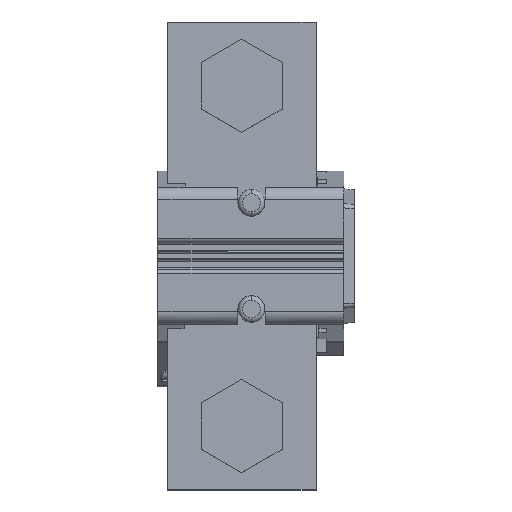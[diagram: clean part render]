
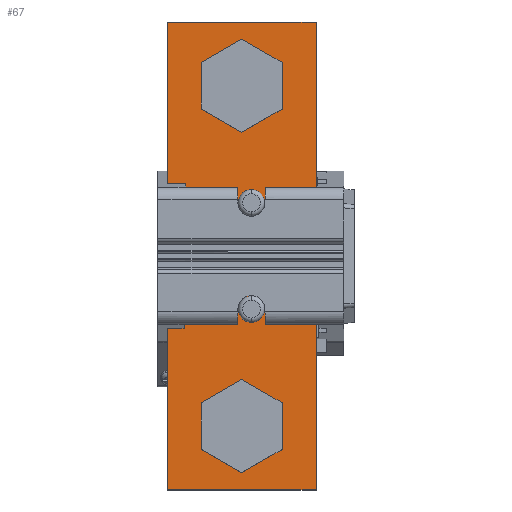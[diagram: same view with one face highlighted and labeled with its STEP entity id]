
A CAD part, top view. The second image highlights one B-rep face of the part: STEP entity #67.
In plain terms, the highlighted planar face has unit normal (0, 0, 1).
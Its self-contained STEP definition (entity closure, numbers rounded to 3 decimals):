
#67=ADVANCED_FACE('',(#417,#418,#419,#420,#421),#422,.T.);
#417=FACE_OUTER_BOUND('',#1091,.T.);
#418=FACE_BOUND('',#1092,.T.);
#419=FACE_BOUND('',#1093,.T.);
#420=FACE_BOUND('',#1094,.T.);
#421=FACE_BOUND('',#1095,.T.);
#422=PLANE('',#1096);
#1091=EDGE_LOOP('',(#3218,#3219,#3220,#3221,#3222,#3223,#3224,#3225));
#1092=EDGE_LOOP('',(#3226,#3227,#3228,#3229,#3230,#3231));
#1093=EDGE_LOOP('',(#3232,#3233));
#1094=EDGE_LOOP('',(#3234,#3235));
#1095=EDGE_LOOP('',(#3236,#3237,#3238,#3239,#3240,#3241));
#1096=AXIS2_PLACEMENT_3D('',#3242,#3243,#3244);
#3218=ORIENTED_EDGE('',*,*,#6003,.F.);
#3219=ORIENTED_EDGE('',*,*,#6004,.F.);
#3220=ORIENTED_EDGE('',*,*,#6005,.T.);
#3221=ORIENTED_EDGE('',*,*,#6006,.F.);
#3222=ORIENTED_EDGE('',*,*,#6007,.T.);
#3223=ORIENTED_EDGE('',*,*,#6008,.T.);
#3224=ORIENTED_EDGE('',*,*,#6009,.T.);
#3225=ORIENTED_EDGE('',*,*,#6010,.T.);
#3226=ORIENTED_EDGE('',*,*,#6011,.T.);
#3227=ORIENTED_EDGE('',*,*,#6012,.T.);
#3228=ORIENTED_EDGE('',*,*,#6013,.F.);
#3229=ORIENTED_EDGE('',*,*,#6014,.T.);
#3230=ORIENTED_EDGE('',*,*,#6015,.T.);
#3231=ORIENTED_EDGE('',*,*,#6016,.F.);
#3232=ORIENTED_EDGE('',*,*,#6017,.T.);
#3233=ORIENTED_EDGE('',*,*,#6018,.T.);
#3234=ORIENTED_EDGE('',*,*,#6019,.T.);
#3235=ORIENTED_EDGE('',*,*,#6020,.T.);
#3236=ORIENTED_EDGE('',*,*,#6021,.F.);
#3237=ORIENTED_EDGE('',*,*,#6022,.T.);
#3238=ORIENTED_EDGE('',*,*,#5989,.T.);
#3239=ORIENTED_EDGE('',*,*,#6002,.F.);
#3240=ORIENTED_EDGE('',*,*,#6000,.T.);
#3241=ORIENTED_EDGE('',*,*,#5998,.T.);
#3242=CARTESIAN_POINT('',(0.,-165.036,433.114));
#3243=DIRECTION('',(0.,0.,1.0));
#3244=DIRECTION('',(0.,1.0,0.));
#5989=EDGE_CURVE('',#7004,#7002,#7005,.T.);
#5998=EDGE_CURVE('',#7020,#7018,#7021,.T.);
#6000=EDGE_CURVE('',#7023,#7020,#7024,.T.);
#6002=EDGE_CURVE('',#7023,#7002,#7026,.T.);
#6003=EDGE_CURVE('',#7027,#7028,#7029,.T.);
#6004=EDGE_CURVE('',#7030,#7027,#7031,.T.);
#6005=EDGE_CURVE('',#7030,#7032,#7033,.T.);
#6006=EDGE_CURVE('',#7034,#7032,#7035,.T.);
#6007=EDGE_CURVE('',#7034,#7036,#7037,.T.);
#6008=EDGE_CURVE('',#7036,#7038,#7039,.T.);
#6009=EDGE_CURVE('',#7038,#7040,#7041,.T.);
#6010=EDGE_CURVE('',#7040,#7028,#7042,.T.);
#6011=EDGE_CURVE('',#7043,#7044,#7045,.T.);
#6012=EDGE_CURVE('',#7044,#7046,#7047,.T.);
#6013=EDGE_CURVE('',#7048,#7046,#7049,.T.);
#6014=EDGE_CURVE('',#7048,#7050,#7051,.T.);
#6015=EDGE_CURVE('',#7050,#7052,#7053,.T.);
#6016=EDGE_CURVE('',#7043,#7052,#7054,.T.);
#6017=EDGE_CURVE('',#7055,#7056,#7057,.T.);
#6018=EDGE_CURVE('',#7056,#7055,#7058,.T.);
#6019=EDGE_CURVE('',#7059,#7060,#7061,.T.);
#6020=EDGE_CURVE('',#7060,#7059,#7062,.T.);
#6021=EDGE_CURVE('',#7063,#7018,#7064,.T.);
#6022=EDGE_CURVE('',#7063,#7004,#7065,.T.);
#7002=VERTEX_POINT('',#8820);
#7004=VERTEX_POINT('',#8823);
#7005=LINE('',#8824,#8825);
#7018=VERTEX_POINT('',#8845);
#7020=VERTEX_POINT('',#8848);
#7021=LINE('',#8849,#8850);
#7023=VERTEX_POINT('',#8853);
#7024=LINE('',#8854,#8855);
#7026=LINE('',#8858,#8859);
#7027=VERTEX_POINT('',#8860);
#7028=VERTEX_POINT('',#8861);
#7029=LINE('',#8862,#8863);
#7030=VERTEX_POINT('',#8864);
#7031=LINE('',#8865,#8866);
#7032=VERTEX_POINT('',#8867);
#7033=LINE('',#8868,#8869);
#7034=VERTEX_POINT('',#8870);
#7035=LINE('',#8871,#8872);
#7036=VERTEX_POINT('',#8873);
#7037=LINE('',#8874,#8875);
#7038=VERTEX_POINT('',#8876);
#7039=LINE('',#8877,#8878);
#7040=VERTEX_POINT('',#8879);
#7041=LINE('',#8880,#8881);
#7042=LINE('',#8882,#8883);
#7043=VERTEX_POINT('',#8884);
#7044=VERTEX_POINT('',#8885);
#7045=LINE('',#8886,#8887);
#7046=VERTEX_POINT('',#8888);
#7047=LINE('',#8889,#8890);
#7048=VERTEX_POINT('',#8891);
#7049=LINE('',#8892,#8893);
#7050=VERTEX_POINT('',#8894);
#7051=LINE('',#8895,#8896);
#7052=VERTEX_POINT('',#8897);
#7053=LINE('',#8898,#8899);
#7054=LINE('',#8900,#8901);
#7055=VERTEX_POINT('',#8902);
#7056=VERTEX_POINT('',#8903);
#7057=CIRCLE('',#8904,3.1);
#7058=CIRCLE('',#8905,3.1);
#7059=VERTEX_POINT('',#8906);
#7060=VERTEX_POINT('',#8907);
#7061=CIRCLE('',#8908,3.1);
#7062=CIRCLE('',#8909,3.1);
#7063=VERTEX_POINT('',#8910);
#7064=LINE('',#8911,#8912);
#7065=LINE('',#8913,#8914);
#8820=CARTESIAN_POINT('',(-9.5,-113.518,433.114));
#8823=CARTESIAN_POINT('',(0.,-119.003,433.114));
#8824=CARTESIAN_POINT('',(0.,-119.003,433.114));
#8825=VECTOR('',#12302,10.97);
#8845=CARTESIAN_POINT('',(9.5,-102.549,433.114));
#8848=CARTESIAN_POINT('',(0.,-97.064,433.114));
#8849=CARTESIAN_POINT('',(0.,-97.064,433.114));
#8850=VECTOR('',#12311,10.97);
#8853=CARTESIAN_POINT('',(-9.5,-102.549,433.114));
#8854=CARTESIAN_POINT('',(-9.5,-102.549,433.114));
#8855=VECTOR('',#12313,10.97);
#8858=CARTESIAN_POINT('',(-9.5,-102.549,433.114));
#8859=VECTOR('',#12315,10.97);
#8860=CARTESIAN_POINT('',(17.5,-93.034,433.114));
#8861=CARTESIAN_POINT('',(17.5,-203.034,433.114));
#8862=CARTESIAN_POINT('',(17.5,-93.034,433.114));
#8863=VECTOR('',#12316,110.0);
#8864=CARTESIAN_POINT('',(-17.5,-93.034,433.114));
#8865=CARTESIAN_POINT('',(-17.5,-93.034,433.114));
#8866=VECTOR('',#12317,35.0);
#8867=CARTESIAN_POINT('',(-17.5,-131.031,433.114));
#8868=CARTESIAN_POINT('',(-17.5,-93.034,433.114));
#8869=VECTOR('',#12318,37.998);
#8870=CARTESIAN_POINT('',(-13.172,-131.031,433.114));
#8871=CARTESIAN_POINT('',(-13.172,-131.031,433.114));
#8872=VECTOR('',#12319,4.328);
#8873=CARTESIAN_POINT('',(-13.528,-165.036,433.114));
#8874=CARTESIAN_POINT('',(-13.172,-131.031,433.114));
#8875=VECTOR('',#12320,34.007);
#8876=CARTESIAN_POINT('',(-17.5,-165.036,433.114));
#8877=CARTESIAN_POINT('',(-13.528,-165.036,433.114));
#8878=VECTOR('',#12321,3.972);
#8879=CARTESIAN_POINT('',(-17.5,-203.034,433.114));
#8880=CARTESIAN_POINT('',(-17.5,-165.036,433.114));
#8881=VECTOR('',#12322,37.998);
#8882=CARTESIAN_POINT('',(-17.5,-203.034,433.114));
#8883=VECTOR('',#12323,35.0);
#8884=CARTESIAN_POINT('',(-9.5,-182.549,433.114));
#8885=CARTESIAN_POINT('',(0.,-177.064,433.114));
#8886=CARTESIAN_POINT('',(-9.5,-182.549,433.114));
#8887=VECTOR('',#12324,10.97);
#8888=CARTESIAN_POINT('',(9.5,-182.549,433.114));
#8889=CARTESIAN_POINT('',(0.,-177.064,433.114));
#8890=VECTOR('',#12325,10.97);
#8891=CARTESIAN_POINT('',(9.5,-193.518,433.114));
#8892=CARTESIAN_POINT('',(9.5,-193.518,433.114));
#8893=VECTOR('',#12326,10.97);
#8894=CARTESIAN_POINT('',(0.,-199.003,433.114));
#8895=CARTESIAN_POINT('',(9.5,-193.518,433.114));
#8896=VECTOR('',#12327,10.97);
#8897=CARTESIAN_POINT('',(-9.5,-193.518,433.114));
#8898=CARTESIAN_POINT('',(0.,-199.003,433.114));
#8899=VECTOR('',#12328,10.97);
#8900=CARTESIAN_POINT('',(-9.5,-182.549,433.114));
#8901=VECTOR('',#12329,10.97);
#8902=CARTESIAN_POINT('',(2.3,-157.434,433.114));
#8903=CARTESIAN_POINT('',(2.3,-163.634,433.114));
#8904=AXIS2_PLACEMENT_3D('',#12330,#12331,#12332);
#8905=AXIS2_PLACEMENT_3D('',#12333,#12334,#12335);
#8906=CARTESIAN_POINT('',(2.3,-132.434,433.114));
#8907=CARTESIAN_POINT('',(2.3,-138.634,433.114));
#8908=AXIS2_PLACEMENT_3D('',#12336,#12337,#12338);
#8909=AXIS2_PLACEMENT_3D('',#12339,#12340,#12341);
#8910=CARTESIAN_POINT('',(9.5,-113.518,433.114));
#8911=CARTESIAN_POINT('',(9.5,-113.518,433.114));
#8912=VECTOR('',#12342,10.97);
#8913=CARTESIAN_POINT('',(9.5,-113.518,433.114));
#8914=VECTOR('',#12343,10.97);
#12302=DIRECTION('',(-0.866,0.5,0.));
#12311=DIRECTION('',(0.866,-0.5,0.));
#12313=DIRECTION('',(0.866,0.5,0.));
#12315=DIRECTION('',(0.,-1.0,0.));
#12316=DIRECTION('',(0.,-1.0,0.));
#12317=DIRECTION('',(1.0,0.0,0.));
#12318=DIRECTION('',(0.,-1.0,0.));
#12319=DIRECTION('',(-1.0,0.,0.));
#12320=DIRECTION('',(-0.01,-1.,0.));
#12321=DIRECTION('',(-1.0,0.,0.));
#12322=DIRECTION('',(0.,-1.0,0.));
#12323=DIRECTION('',(1.0,0.0,0.));
#12324=DIRECTION('',(0.866,0.5,0.));
#12325=DIRECTION('',(0.866,-0.5,0.));
#12326=DIRECTION('',(0.,1.0,0.));
#12327=DIRECTION('',(-0.866,-0.5,0.));
#12328=DIRECTION('',(-0.866,0.5,0.));
#12329=DIRECTION('',(0.,-1.0,0.));
#12330=CARTESIAN_POINT('',(2.3,-160.534,433.114));
#12331=DIRECTION('',(0.,0.,-1.0));
#12332=DIRECTION('',(0.,1.0,0.));
#12333=CARTESIAN_POINT('',(2.3,-160.534,433.114));
#12334=DIRECTION('',(0.,0.,-1.0));
#12335=DIRECTION('',(0.,-1.0,0.));
#12336=CARTESIAN_POINT('',(2.3,-135.534,433.114));
#12337=DIRECTION('',(0.,0.,-1.0));
#12338=DIRECTION('',(0.,1.0,0.));
#12339=CARTESIAN_POINT('',(2.3,-135.534,433.114));
#12340=DIRECTION('',(0.,0.,-1.0));
#12341=DIRECTION('',(0.,-1.0,0.));
#12342=DIRECTION('',(0.,1.0,0.));
#12343=DIRECTION('',(-0.866,-0.5,0.));
